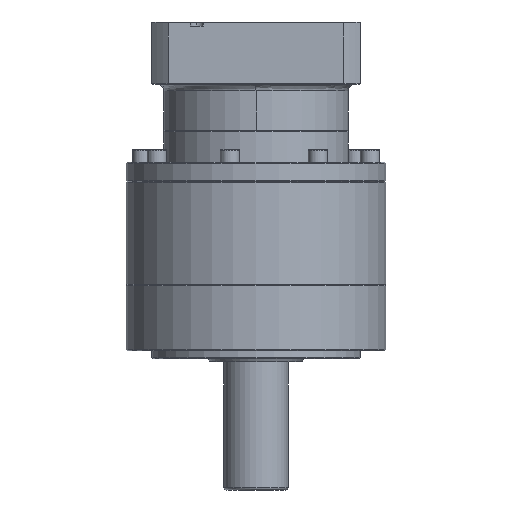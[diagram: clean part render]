
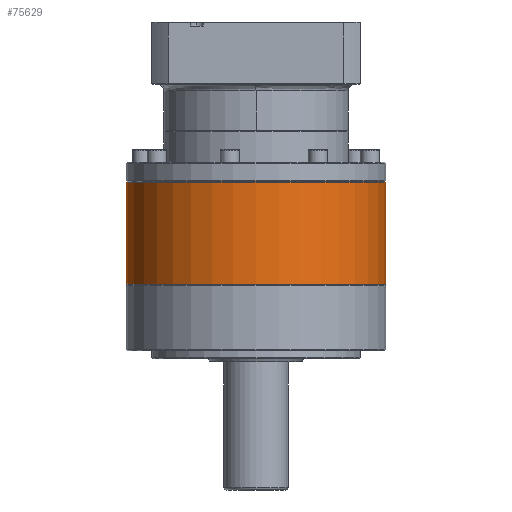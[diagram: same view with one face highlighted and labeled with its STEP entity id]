
A CAD part, front view. The second image highlights one B-rep face of the part: STEP entity #75629.
In plain terms, the highlighted cylindrical face has radius 81 mm (diameter 162 mm), a partial arc.
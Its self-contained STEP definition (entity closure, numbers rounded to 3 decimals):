
#1099 = EDGE_CURVE ( 'NONE', #48075, #38797, #72176, .T. ) ;
#3644 = DIRECTION ( 'NONE',  ( 0., 0., 1. ) ) ;
#7555 = CARTESIAN_POINT ( 'NONE',  ( -54.528, 113.017, -77.373 ) ) ;
#13440 = VERTEX_POINT ( 'NONE', #127305 ) ;
#24017 = VECTOR ( 'NONE', #58439, 1000. ) ;
#24254 = EDGE_CURVE ( 'NONE', #38797, #146566, #102591, .T. ) ;
#25553 = FACE_OUTER_BOUND ( 'NONE', #93109, .T. ) ;
#30510 = CARTESIAN_POINT ( 'NONE',  ( -135.528, 113.017, -140.873 ) ) ;
#38797 = VERTEX_POINT ( 'NONE', #104347 ) ;
#45589 = ORIENTED_EDGE ( 'NONE', *, *, #24254, .T. ) ;
#46077 = CARTESIAN_POINT ( 'NONE',  ( -54.528, 113.017, -76.873 ) ) ;
#47698 = DIRECTION ( 'NONE',  ( 0., 0., -1. ) ) ;
#48075 = VERTEX_POINT ( 'NONE', #7555 ) ;
#56285 = DIRECTION ( 'NONE',  ( -1., 0., 0. ) ) ;
#57125 = DIRECTION ( 'NONE',  ( 0., 0., -1. ) ) ;
#58439 = DIRECTION ( 'NONE',  ( 0., 0., -1. ) ) ;
#63592 = AXIS2_PLACEMENT_3D ( 'NONE', #145633, #57125, #133299 ) ;
#71800 = ORIENTED_EDGE ( 'NONE', *, *, #157693, .F. ) ;
#72176 = CIRCLE ( 'NONE', #77190, 81. ) ;
#75629 = ADVANCED_FACE ( 'NONE', ( #25553 ), #151965, .T. ) ;
#77190 = AXIS2_PLACEMENT_3D ( 'NONE', #100798, #47698, #98598 ) ;
#79425 = ORIENTED_EDGE ( 'NONE', *, *, #140810, .T. ) ;
#88149 = CIRCLE ( 'NONE', #99238, 81. ) ;
#88807 = DIRECTION ( 'NONE',  ( 0., 0., -1. ) ) ;
#93109 = EDGE_LOOP ( 'NONE', ( #71800, #130651, #45589, #79425 ) ) ;
#98598 = DIRECTION ( 'NONE',  ( -1., 0., 0. ) ) ;
#99238 = AXIS2_PLACEMENT_3D ( 'NONE', #30510, #3644, #56285 ) ;
#100798 = CARTESIAN_POINT ( 'NONE',  ( -135.528, 113.017, -77.373 ) ) ;
#102591 = LINE ( 'NONE', #127541, #160701 ) ;
#104347 = CARTESIAN_POINT ( 'NONE',  ( -216.528, 113.017, -77.373 ) ) ;
#127305 = CARTESIAN_POINT ( 'NONE',  ( -54.528, 113.017, -140.873 ) ) ;
#127541 = CARTESIAN_POINT ( 'NONE',  ( -216.528, 113.017, -76.873 ) ) ;
#130651 = ORIENTED_EDGE ( 'NONE', *, *, #1099, .T. ) ;
#133299 = DIRECTION ( 'NONE',  ( -1., 0., 0. ) ) ;
#140810 = EDGE_CURVE ( 'NONE', #146566, #13440, #88149, .T. ) ;
#143142 = CARTESIAN_POINT ( 'NONE',  ( -216.528, 113.017, -140.873 ) ) ;
#145633 = CARTESIAN_POINT ( 'NONE',  ( -135.528, 113.017, -76.873 ) ) ;
#146566 = VERTEX_POINT ( 'NONE', #143142 ) ;
#150439 = LINE ( 'NONE', #46077, #24017 ) ;
#151965 = CYLINDRICAL_SURFACE ( 'NONE', #63592, 81. ) ;
#157693 = EDGE_CURVE ( 'NONE', #48075, #13440, #150439, .T. ) ;
#160701 = VECTOR ( 'NONE', #88807, 1000. ) ;
